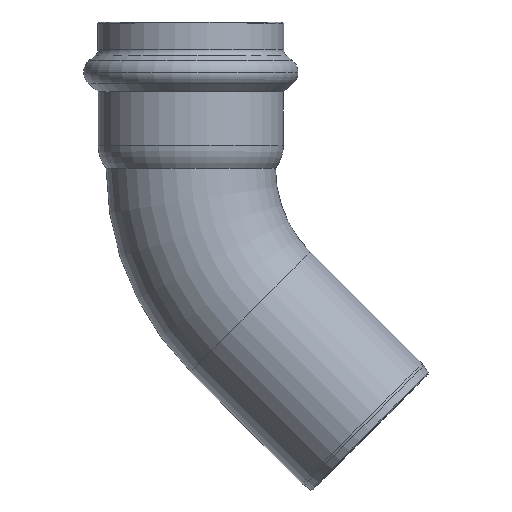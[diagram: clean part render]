
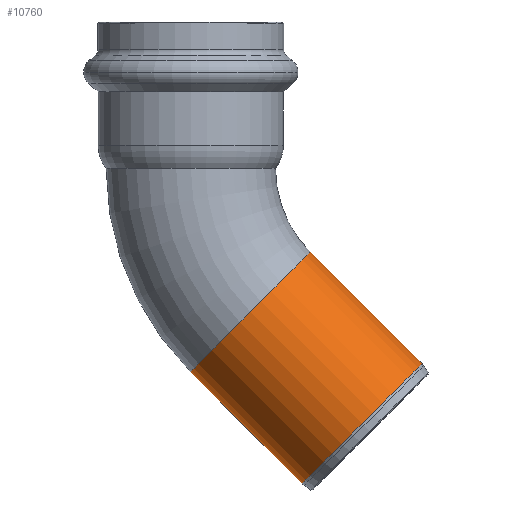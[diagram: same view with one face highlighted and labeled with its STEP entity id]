
A CAD part, top view. The second image highlights one B-rep face of the part: STEP entity #10760.
In plain terms, the highlighted cylindrical face has radius 17.5 mm (diameter 35 mm), a partial arc.
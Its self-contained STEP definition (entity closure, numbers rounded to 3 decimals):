
#1240=CARTESIAN_POINT('',(54.538,-5.24,0.));
#1250=DIRECTION('',(-0.707,0.707,0.));
#1260=DIRECTION('',(0.707,0.707,0.));
#1270=AXIS2_PLACEMENT_3D('',#1240,#1250,#1260);
#1280=CYLINDRICAL_SURFACE('',#1270,17.5);
#1290=CARTESIAN_POINT('',(42.163,-17.614,
0.));
#1300=DIRECTION('',(-0.707,0.707,0.));
#1310=VECTOR('',#1300,1.);
#1320=LINE('',#1290,#1310);
#1330=CARTESIAN_POINT('',(54.056,-29.507,0.));
#1340=VERTEX_POINT('',#1330);
#1350=CARTESIAN_POINT('',(30.934,-6.384,
0.));
#1360=VERTEX_POINT('',#1350);
#1370=EDGE_CURVE('',#1340,#1360,#1320,.T.);
#1390=CARTESIAN_POINT('',(66.431,-17.132,0.));
#1400=DIRECTION('',(0.707,-0.707,0.));
#1410=DIRECTION('',(0.707,0.707,0.));
#1420=AXIS2_PLACEMENT_3D('',#1390,#1400,#1410);
#1430=CIRCLE('',#1420,17.5);
#1440=CARTESIAN_POINT('',(78.805,-4.758,0.));
#1450=VERTEX_POINT('',#1440);
#1480=CARTESIAN_POINT('',(66.912,7.135,0.));
#1490=DIRECTION('',(-0.707,0.707,0.));
#1500=VECTOR('',#1490,1.);
#1510=LINE('',#1480,#1500);
#1520=CARTESIAN_POINT('',(55.682,18.365,0.));
#1530=VERTEX_POINT('',#1520);
#1540=EDGE_CURVE('',#1450,#1530,#1510,.T.);
#1560=CARTESIAN_POINT('',(43.308,5.99,0.));
#1570=DIRECTION('',(0.707,-0.707,0.));
#1580=DIRECTION('',(0.707,0.707,0.));
#1590=AXIS2_PLACEMENT_3D('',#1560,#1570,#1580);
#1600=CIRCLE('',#1590,17.5);
#9810=EDGE_CURVE('',#1530,#1360,#1600,.T.);
#10690=EDGE_CURVE('',#1450,#1340,#1430,.T.);
#10700=ORIENTED_EDGE('',*,*,#10690,.F.);
#10710=ORIENTED_EDGE('',*,*,#1370,.F.);
#10720=ORIENTED_EDGE('',*,*,#9810,.T.);
#10730=ORIENTED_EDGE('',*,*,#1540,.T.);
#10740=EDGE_LOOP('',(#10730,#10720,#10710,#10700));
#10750=FACE_OUTER_BOUND('',#10740,.T.);
#10760=ADVANCED_FACE('',(#10750),#1280,.T.);
